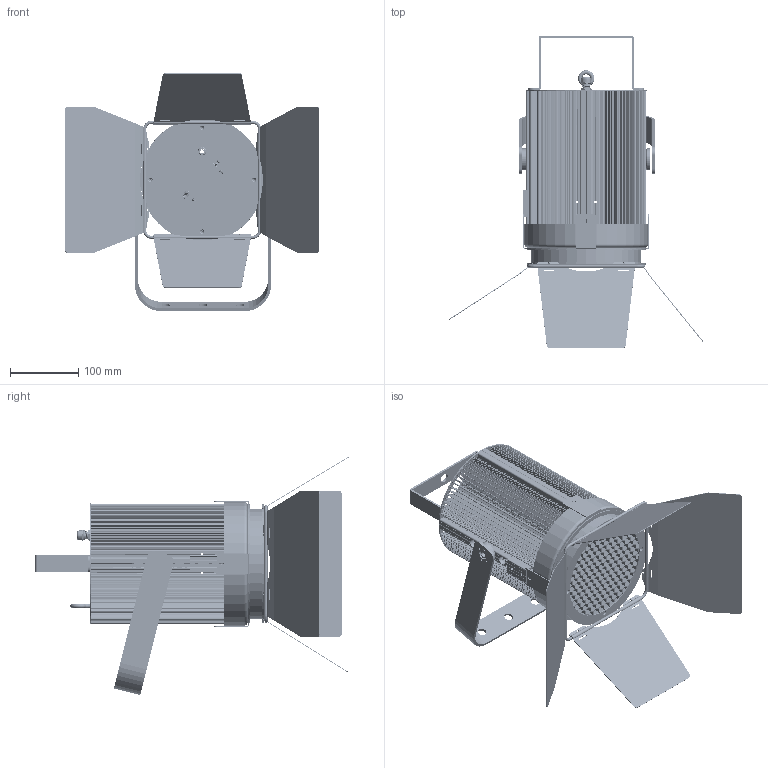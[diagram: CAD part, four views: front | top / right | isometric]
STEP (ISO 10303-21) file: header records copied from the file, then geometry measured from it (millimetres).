
FILE_DESCRIPTION (( 'STEP AP214' ), '1' );
FILE_NAME ('¶¨ÖÆ³¡µÆ.STEP', '2025-07-28T00:50:58', ( '' ), ( '' ), 'SwSTEP 2.0', 'SolidWorks 2023', '' );
FILE_SCHEMA (( 'AUTOMOTIVE_DESIGN' ));
Length unit declared in the file: millimetre
Products named in the file (32): M3X12-0001^200W0001_ASM_CD-B_ASM_cd-b0626_asm(2)_定制场灯; cd-b0626_asm(2)^定制场灯; M12 Kablo Rakoru.stp; ZH-2__A___1^ZHZ-100__ASM_1_ASM_ZHZ-100__ASM_ASM_CD-B_ASM_cd-b0626_asm(2)_定制场灯; TISHOU2^CD-B_ASM_cd-b0626_asm(2)_定制场灯; ZHZ-100__ASM_ASM^CD-B_ASM_cd-b0626_asm(2)_定制场灯; 20001^200W0001_ASM_CD-B_ASM_cd-b0626_asm(2)_定制场灯; 零件3^ZHZ-100__ASM_1_ASM_ZHZ-100__ASM_ASM_CD-B_ASM_cd-b0626_asm(2)_定制场灯; CL-TS_^CD-B_ASM_cd-b0626_asm(2)_定制场灯; LZ-24^CD-B_ASM_cd-b0626_asm(2)_定制场灯; 10001^200W0001_ASM_CD-B_ASM_cd-b0626_asm(2)_定制场灯; DT-0_^CD-B_ASM_cd-b0626_asm(2)_定制场灯; M3X10-0001^200W0001_ASM_CD-B_ASM_cd-b0626_asm(2)_定制场灯; 定制场灯; 200W0001_ASM^CD-B_ASM_cd-b0626_asm(2)_定制场灯; LZ-48_^CD-B_ASM_cd-b0626_asm(2)_定制场灯; ZH-3__A___1^ZHZ-100__ASM_1_ASM_ZHZ-100__ASM_ASM_CD-B_ASM_cd-b0626_asm(2)_定制场灯; ZHZ-100__ASM_1_ASM^ZHZ-100__ASM_ASM_CD-B_ASM_cd-b0626_asm(2)_定制场灯; M3X4-0001^200W0001_ASM_CD-B_ASM_cd-b0626_asm(2)_定制场灯; 零件1^ZHZ-100__ASM_1_ASM_ZHZ-100__ASM_ASM_CD-B_ASM_cd-b0626_asm(2)_定制场灯; DGB-Q__A___1^ZHZ-100__ASM_1_ASM_ZHZ-100__ASM_ASM_CD-B_ASM_cd-b0626_asm(2)_定制场灯; 000^CD-B_ASM_cd-b0626_asm(2)_定制场灯; FZ-D__A___1^ZHZ-100__ASM_1_ASM_ZHZ-100__ASM_ASM_CD-B_ASM_cd-b0626_asm(2)_定制场灯; QGB-4_^CD-B_ASM_cd-b0626_asm(2)_定制场灯; TS-41_^CD-B_ASM_cd-b0626_asm(2)_定制场灯; JQ-44^CD-B_ASM_cd-b0626_asm(2)_定制场灯; HK-18_^CD-B_ASM_cd-b0626_asm(2)_定制场灯; 零件2^ZHZ-100__ASM_1_ASM_ZHZ-100__ASM_ASM_CD-B_ASM_cd-b0626_asm(2)_定制场灯; CD-B_ASM^cd-b0626_asm(2)_定制场灯; DH-6^CD-B_ASM_cd-b0626_asm(2)_定制场灯; K3-W_^CD-B_ASM_cd-b0626_asm(2)_定制场灯; 零件1^定制场灯
Assembly tree (40 placements, depth 6):
  定制场灯
    cd-b0626_asm(2)^定制场灯
      CD-B_ASM^cd-b0626_asm(2)_定制场灯
        ZHZ-100__ASM_ASM^CD-B_ASM_cd-b0626_asm(2)_定制场灯
          ZHZ-100__ASM_1_ASM^ZHZ-100__ASM_ASM_CD-B_ASM_cd-b0626_asm(2)_定制场灯
            DGB-Q__A___1^ZHZ-100__ASM_1_ASM_ZHZ-100__ASM_ASM_CD-B_ASM_cd-b0626_asm(2)_定制场灯
            FZ-D__A___1^ZHZ-100__ASM_1_ASM_ZHZ-100__ASM_ASM_CD-B_ASM_cd-b0626_asm(2)_定制场灯
            ZH-2__A___1^ZHZ-100__ASM_1_ASM_ZHZ-100__ASM_ASM_CD-B_ASM_cd-b0626_asm(2)_定制场灯  x2
            ZH-3__A___1^ZHZ-100__ASM_1_ASM_ZHZ-100__ASM_ASM_CD-B_ASM_cd-b0626_asm(2)_定制场灯  x2
            零件1^ZHZ-100__ASM_1_ASM_ZHZ-100__ASM_ASM_CD-B_ASM_cd-b0626_asm(2)_定制场灯
            零件2^ZHZ-100__ASM_1_ASM_ZHZ-100__ASM_ASM_CD-B_ASM_cd-b0626_asm(2)_定制场灯
            零件3^ZHZ-100__ASM_1_ASM_ZHZ-100__ASM_ASM_CD-B_ASM_cd-b0626_asm(2)_定制场灯
        200W0001_ASM^CD-B_ASM_cd-b0626_asm(2)_定制场灯
          M3X4-0001^200W0001_ASM_CD-B_ASM_cd-b0626_asm(2)_定制场灯  x4
          10001^200W0001_ASM_CD-B_ASM_cd-b0626_asm(2)_定制场灯
          20001^200W0001_ASM_CD-B_ASM_cd-b0626_asm(2)_定制场灯
          M3X12-0001^200W0001_ASM_CD-B_ASM_cd-b0626_asm(2)_定制场灯
          M3X10-0001^200W0001_ASM_CD-B_ASM_cd-b0626_asm(2)_定制场灯
        DT-0_^CD-B_ASM_cd-b0626_asm(2)_定制场灯  x2
        000^CD-B_ASM_cd-b0626_asm(2)_定制场灯
        LZ-48_^CD-B_ASM_cd-b0626_asm(2)_定制场灯  x2
        QGB-4_^CD-B_ASM_cd-b0626_asm(2)_定制场灯
        K3-W_^CD-B_ASM_cd-b0626_asm(2)_定制场灯  x2
        LZ-24^CD-B_ASM_cd-b0626_asm(2)_定制场灯
        CL-TS_^CD-B_ASM_cd-b0626_asm(2)_定制场灯  x2
        JQ-44^CD-B_ASM_cd-b0626_asm(2)_定制场灯
        TS-41_^CD-B_ASM_cd-b0626_asm(2)_定制场灯
        DH-6^CD-B_ASM_cd-b0626_asm(2)_定制场灯
        HK-18_^CD-B_ASM_cd-b0626_asm(2)_定制场灯
        TISHOU2^CD-B_ASM_cd-b0626_asm(2)_定制场灯
    M12 Kablo Rakoru.stp
    零件1^定制场灯
Bounding box: 374.5 x 460.43 x 350.13 mm (x, y, z)
Volume: 1609974.6 mm3; surface area: 1703873.5 mm2
Topology: 35 solids, 39 shells, 9925 faces, 29543 edges, 19622 vertices
Faces by surface type: plane 5049, cylinder 4655, cone 123, bspline 56, torus 34, sphere 8
Full cylindrical faces by diameter (mm): 2.5 x6, 5.5 x4, 6.5 x2, 10.376 x1, 10.517 x4, 12 x6, 12.8 x1, 14 x2, 108 x1, 145 x2, 160 x2, 162.4 x1, 170 x1, 175 x3
Entity records: 278668 total; most frequent: CARTESIAN_POINT 54230, ORIENTED_EDGE 35002, DIRECTION 33670, EDGE_CURVE 17505, LINE 11984, VECTOR 11984, VERTEX_POINT 11627, AXIS2_PLACEMENT_3D 10843
